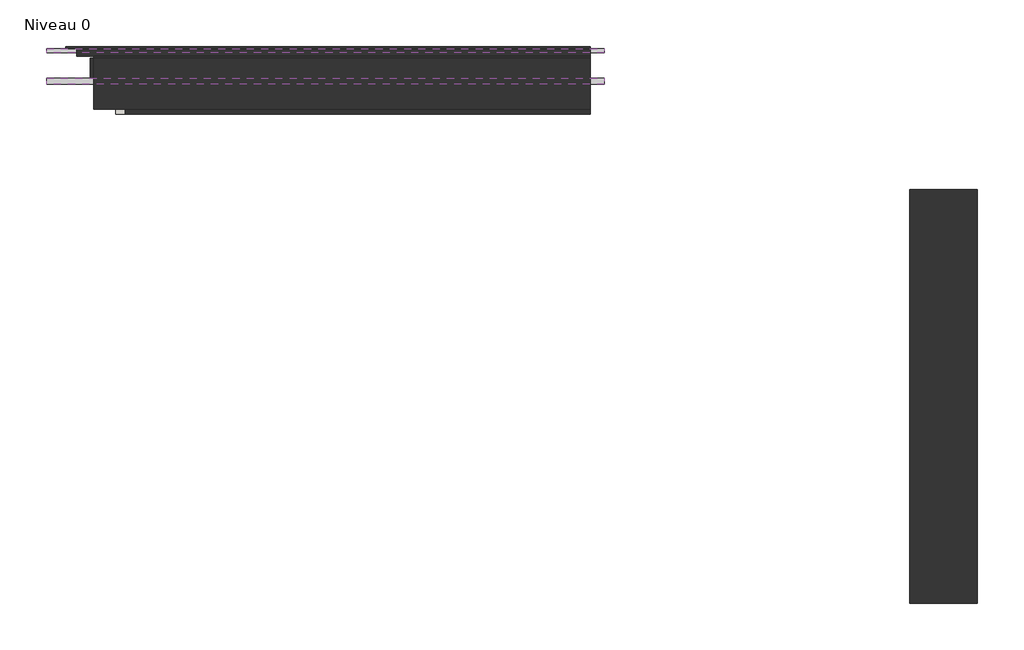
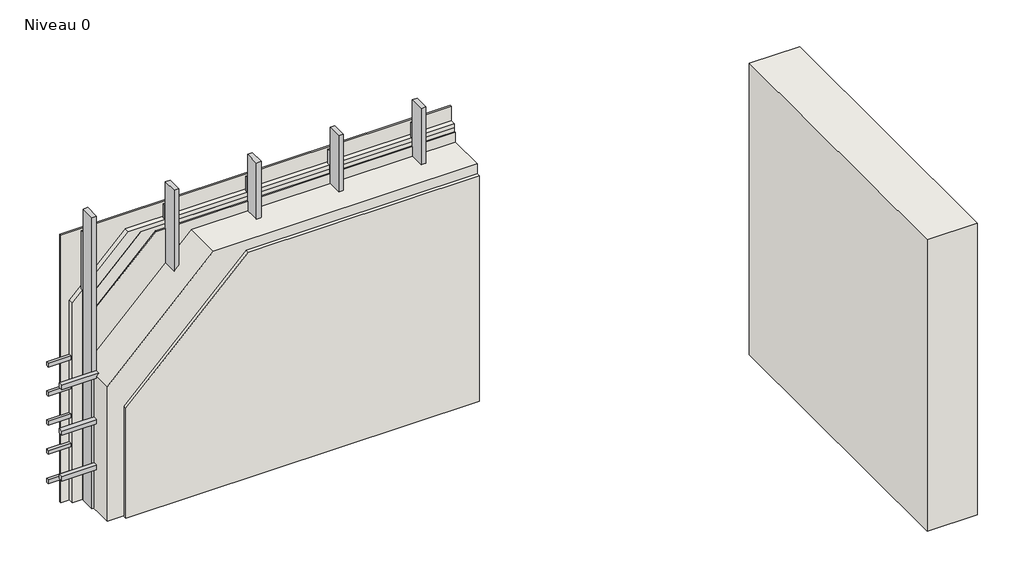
# One storey: 10 columns, 8 beams, 7 walls.
"""IFC4 building model written with IfcOpenShell, lengths in millimetres."""

from ifc_helpers import new_model, si_unit, frame, origin, origin_with_axes, place, context, project, spatial, polyline, outline, extrude, transform, mapped, element, save
from components import beam_40x27_4b46f52b, beam_45x45_aacaedf5, column_40x27_67a25514, column_45x145_2b58826d

model = new_model("IFC4")

# Units and contexts
model_context = context("Model", 3, world=origin())
ifc_project = project(units=[si_unit("LENGTHUNIT", "METRE", prefix="MILLI")], contexts=[model_context])

# Site, building, storey
site = spatial("IfcSite", under=ifc_project)
building = spatial("IfcBuilding", under=site)
storey = spatial("IfcBuildingStorey", under=building, Name="Niveau 0", Elevation=0.0)

# Beams
placement = place(None, origin())
beam_40x27_shape = beam_40x27_4b46f52b(model_context)
element("IfcBeam", 1, ObjectType="Poutre - Bois d'oeuvre : 40x27", at=placement, inside=storey, context=model_context, shape_type="MappedRepresentation", body=[
    mapped(beam_40x27_shape, transform((-4175.8830184, -849.7584766, 280.0), x_axis=(1.0, 0.0, 0.0), y_axis=(0.0, 1.0, 0.0), z_axis=(0.0, 0.0, 1.0))),
])
element("IfcBeam", 2, ObjectType="Poutre - Bois d'oeuvre : 40x27", at=placement, inside=storey, context=model_context, shape_type="MappedRepresentation", body=[
    mapped(beam_40x27_shape, transform((-4175.8830184, -849.7584766, 580.0), x_axis=(1.0, 0.0, 0.0), y_axis=(0.0, 1.0, 0.0), z_axis=(0.0, 0.0, 1.0))),
])
element("IfcBeam", 3, ObjectType="Poutre - Bois d'oeuvre : 40x27", at=placement, inside=storey, context=model_context, shape_type="MappedRepresentation", body=[
    mapped(beam_40x27_shape, transform((-4175.8830184, -849.7584766, 880.0), x_axis=(1.0, 0.0, 0.0), y_axis=(0.0, 1.0, 0.0), z_axis=(0.0, 0.0, 1.0))),
])
element("IfcBeam", 4, ObjectType="Poutre - Bois d'oeuvre : 40x27", at=placement, inside=storey, context=model_context, shape_type="MappedRepresentation", body=[
    mapped(beam_40x27_shape, transform((-4175.8830184, -849.7584766, 1180.0), x_axis=(1.0, 0.0, 0.0), y_axis=(0.0, 1.0, 0.0), z_axis=(0.0, 0.0, 1.0))),
])
element("IfcBeam", 5, ObjectType="Poutre - Bois d'oeuvre : 40x27", at=placement, inside=storey, context=model_context, shape_type="MappedRepresentation", body=[
    mapped(beam_40x27_shape, transform((-4175.8830184, -849.7584766, 1480.0), x_axis=(1.0, 0.0, 0.0), y_axis=(0.0, 1.0, 0.0), z_axis=(0.0, 0.0, 1.0))),
])
beam_45x45_shape = beam_45x45_aacaedf5(model_context)
element("IfcBeam", 6, ObjectType="Poutre - Bois d'oeuvre : 45x45", at=placement, inside=storey, context=model_context, shape_type="MappedRepresentation", body=[
    mapped(beam_45x45_shape, transform((-4235.3588823, -1070.7584766, 447.5), x_axis=(1.0, 0.0, 0.0), y_axis=(0.0, 1.0, 0.0), z_axis=(0.0, 0.0, 1.0))),
])
element("IfcBeam", 7, ObjectType="Poutre - Bois d'oeuvre : 45x45", at=placement, inside=storey, context=model_context, shape_type="MappedRepresentation", body=[
    mapped(beam_45x45_shape, transform((-4235.3588823, -1070.7584766, 917.5), x_axis=(1.0, 0.0, 0.0), y_axis=(0.0, 1.0, 0.0), z_axis=(0.0, 0.0, 1.0))),
])
element("IfcBeam", 8, ObjectType="Poutre - Bois d'oeuvre : 45x45", at=placement, inside=storey, context=model_context, shape_type="MappedRepresentation", body=[
    mapped(beam_45x45_shape, transform((-4235.3588823, -1070.7584766, 1387.5), x_axis=(1.0, 0.0, 0.0), y_axis=(0.0, 1.0, 0.0), z_axis=(0.0, 0.0, 1.0))),
])

# Columns
column_40x27_shape = column_40x27_67a25514(model_context)
element("IfcColumn", 9, ObjectType="Bois - Bois de construction de dimensions courantes : 40x27", at=placement, inside=storey, context=model_context, shape_type="MappedRepresentation", body=[
    mapped(column_40x27_shape, transform((-5915.0543614, -876.7584766, 0.0), x_axis=(1.0, 0.0, 0.0), y_axis=(0.0, 1.0, 0.0), z_axis=(0.0, 0.0, 1.0))),
])
element("IfcColumn", 10, ObjectType="Bois - Bois de construction de dimensions courantes : 40x27", at=placement, inside=storey, context=model_context, shape_type="MappedRepresentation", body=[
    mapped(column_40x27_shape, transform((-5113.5408085, -876.7584766, 0.0), x_axis=(1.0, 0.0, 0.0), y_axis=(0.0, 1.0, 0.0), z_axis=(0.0, 0.0, 1.0))),
])
element("IfcColumn", 11, ObjectType="Bois - Bois de construction de dimensions courantes : 40x27", at=placement, inside=storey, context=model_context, shape_type="MappedRepresentation", body=[
    mapped(column_40x27_shape, transform((-4312.0272556, -876.7584766, 0.0), x_axis=(1.0, 0.0, 0.0), y_axis=(0.0, 1.0, 0.0), z_axis=(0.0, 0.0, 1.0))),
])
element("IfcColumn", 12, ObjectType="Bois - Bois de construction de dimensions courantes : 40x27", at=placement, inside=storey, context=model_context, shape_type="MappedRepresentation", body=[
    mapped(column_40x27_shape, transform((-3510.5137028, -876.7584766, 0.0), x_axis=(1.0, 0.0, 0.0), y_axis=(0.0, 1.0, 0.0), z_axis=(0.0, 0.0, 1.0))),
])
element("IfcColumn", 13, ObjectType="Bois - Bois de construction de dimensions courantes : 40x27", at=placement, inside=storey, context=model_context, shape_type="MappedRepresentation", body=[
    mapped(column_40x27_shape, transform((-2709.0001499, -880.7604297, 0.0), x_axis=(1.0, 0.0, 0.0), y_axis=(0.0, 1.0, 0.0), z_axis=(0.0, 0.0, 1.0))),
])
column_45x145_shape = column_45x145_2b58826d(model_context)
element("IfcColumn", 14, ObjectType="Bois - Bois de construction de dimensions courantes : 45X145", at=placement, inside=storey, context=model_context, shape_type="MappedRepresentation", body=[
    mapped(column_45x145_shape, transform((-5915.0543614, -975.7584766, 0.0), x_axis=(1.0, 0.0, 0.0), y_axis=(0.0, 1.0, 0.0), z_axis=(0.0, 0.0, 1.0))),
])
element("IfcColumn", 15, ObjectType="Bois - Bois de construction de dimensions courantes : 45X145", at=placement, inside=storey, context=model_context, shape_type="MappedRepresentation", body=[
    mapped(column_45x145_shape, transform((-5113.5408085, -975.7584766, 0.0), x_axis=(1.0, 0.0, 0.0), y_axis=(0.0, 1.0, 0.0), z_axis=(0.0, 0.0, 1.0))),
])
element("IfcColumn", 16, ObjectType="Bois - Bois de construction de dimensions courantes : 45X145", at=placement, inside=storey, context=model_context, shape_type="MappedRepresentation", body=[
    mapped(column_45x145_shape, transform((-4312.0272556, -975.7584766, 0.0), x_axis=(1.0, 0.0, 0.0), y_axis=(0.0, 1.0, 0.0), z_axis=(0.0, 0.0, 1.0))),
])
element("IfcColumn", 17, ObjectType="Bois - Bois de construction de dimensions courantes : 45X145", at=placement, inside=storey, context=model_context, shape_type="MappedRepresentation", body=[
    mapped(column_45x145_shape, transform((-3510.5137028, -975.7584766, 0.0), x_axis=(1.0, 0.0, 0.0), y_axis=(0.0, 1.0, 0.0), z_axis=(0.0, 0.0, 1.0))),
])
element("IfcColumn", 18, ObjectType="Bois - Bois de construction de dimensions courantes : 45X145", at=placement, inside=storey, context=model_context, shape_type="MappedRepresentation", body=[
    mapped(column_45x145_shape, transform((-2709.0001499, -975.7584766, 0.0), x_axis=(1.0, 0.0, 0.0), y_axis=(0.0, 1.0, 0.0), z_axis=(0.0, 0.0, 1.0))),
])

# Walls
element("IfcWall", 19, ObjectType="Bardage", at=placement, inside=storey, context=model_context, shape_type="SweptSolid", body=[
    extrude(outline(polyline([(-2315.0543614, -836.2584766), (-6115.0543614, -836.2584766), (-6115.0543614, -819.2584766), (-2315.0543614, -819.2584766), (-2315.0543614, -836.2584766)])), origin_with_axes(), (0.0, 0.0, 1.0), 2750.0),
])
element("IfcWall", 20, ObjectType="Botte de paille", at=placement, inside=storey, context=model_context, shape_type="SweptSolid", body=[
    extrude(outline(polyline([(0.0, -5915.0543614), (0.0, -2315.0543614), (2420.0, -2315.0543614), (2420.0, -4882.9937538), (1387.9393924, -5915.0543614), (0.0, -5915.0543614)])), frame((0.0, -1273.2584766, 0.0), z_axis=(0.0, 1.0, 0.0), x_axis=(0.0, 0.0, 1.0)), (0.0, 0.0, 1.0), 370.0),
])
element("IfcWall", 21, ObjectType="Lame d'air ventillée", at=placement, inside=storey, context=model_context, shape_type="SweptSolid", body=[
    extrude(outline(polyline([(0.0, -6035.0543614), (0.0, -2315.0543614), (2600.0, -2315.0543614), (2600.0, -5489.5264897), (2054.4721283, -6035.0543614), (0.0, -6035.0543614)])), frame((0.0, -890.2584766, 0.0), z_axis=(0.0, 1.0, 0.0), x_axis=(0.0, 0.0, 1.0)), (0.0, 0.0, 1.0), 54.0),
])
element("IfcWall", 22, ObjectType="Pare pluie", at=placement, inside=storey, context=model_context, shape_type="SweptSolid", body=[
    extrude(outline(polyline([(0.0, -5915.0543614), (0.0, -2315.0543614), (2560.0, -2315.0543614), (2560.0, -5371.6734102), (2016.6190488, -5915.0543614), (0.0, -5915.0543614)])), frame((0.0, -891.2584766, 0.0), z_axis=(0.0, 1.0, 0.0), x_axis=(0.0, 0.0, 1.0)), (0.0, 0.0, 1.0), 1.0),
])
element("IfcWall", 23, ObjectType="Contreventement", at=placement, inside=storey, context=model_context, shape_type="SweptSolid", body=[
    extrude(outline(polyline([(0.0, -5915.0543614), (0.0, -2315.0543614), (2520.0, -2315.0543614), (2520.0, -5229.9974035), (1834.9430422, -5915.0543614), (0.0, -5915.0543614)])), frame((0.0, -903.2584766, 0.0), z_axis=(0.0, 1.0, 0.0), x_axis=(0.0, 0.0, 1.0)), (0.0, 0.0, 1.0), 12.0),
])
element("IfcWall", 24, ObjectType="Enduit terre", at=placement, inside=storey, context=model_context, shape_type="SweptSolid", body=[
    extrude(outline(polyline([(0.0, -5755.0543614), (0.0, -2315.0543614), (2320.0, -2315.0543614), (2320.0, -4564.4927424), (1129.438381, -5755.0543614), (0.0, -5755.0543614)])), frame((0.0, -1308.2584766, 0.0), z_axis=(0.0, 1.0, 0.0), x_axis=(0.0, 0.0, 1.0)), (0.0, 0.0, 1.0), 35.0),
])
element("IfcWall", 25, ObjectType="SBW_01", at=placement, inside=storey, context=model_context, shape_type="SweptSolid", body=[
    extrude(outline(polyline([(-0.3062547, -4855.5228881), (-0.3062547, -1855.5228881), (488.6937453, -1855.5228881), (488.6937453, -4855.5228881), (-0.3062547, -4855.5228881)])), origin_with_axes(), (0.0, 0.0, 1.0), 3000.0),
])

save(model, "model.ifc")
